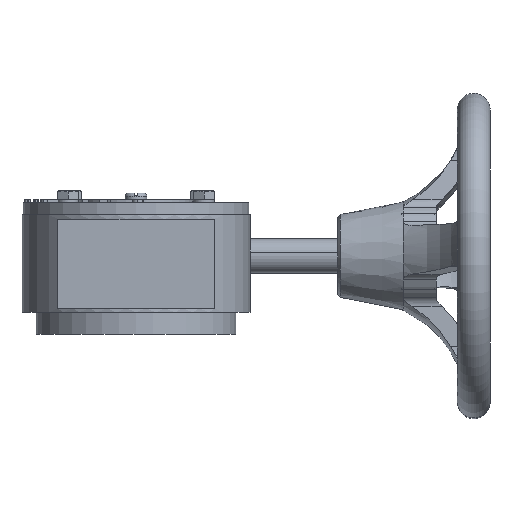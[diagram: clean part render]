
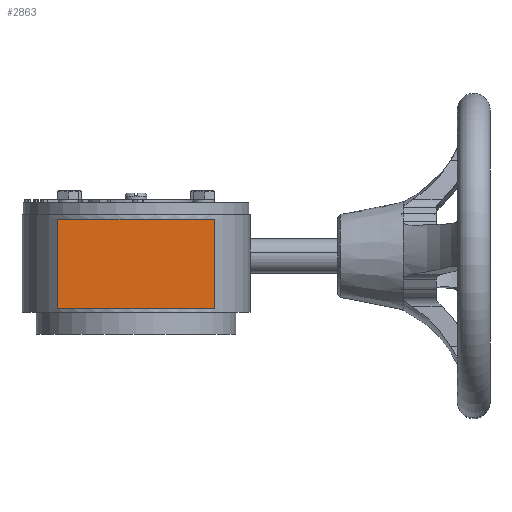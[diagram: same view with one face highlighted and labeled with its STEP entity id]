
A CAD part, front view. The second image highlights one B-rep face of the part: STEP entity #2863.
In plain terms, the highlighted planar face has unit normal (0, -1, 0).
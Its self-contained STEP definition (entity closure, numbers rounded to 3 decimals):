
#2111 = PLANE('',#2112);
#2112 = AXIS2_PLACEMENT_3D('',#2113,#2114,#2115);
#2113 = CARTESIAN_POINT('',(-108.961,116.402,
    -8.425));
#2114 = DIRECTION('',(0.,0.,1.));
#2115 = DIRECTION('',(1.,0.,-0.));
#2131 = VERTEX_POINT('',#2132);
#2132 = CARTESIAN_POINT('',(-110.38,114.275,
    -8.425));
#2146 = PLANE('',#2147);
#2147 = AXIS2_PLACEMENT_3D('',#2148,#2149,#2150);
#2148 = CARTESIAN_POINT('',(-110.38,114.275,
    -8.425));
#2149 = DIRECTION('',(1.,0.,0.));
#2150 = DIRECTION('',(0.,0.,-1.));
#2158 = EDGE_CURVE('',#2131,#2159,#2161,.T.);
#2159 = VERTEX_POINT('',#2160);
#2160 = CARTESIAN_POINT('',(-107.543,114.275,
    -8.425));
#2161 = SURFACE_CURVE('',#2162,(#2166,#2173),.PCURVE_S1.);
#2162 = LINE('',#2163,#2164);
#2163 = CARTESIAN_POINT('',(-110.38,114.275,
    -8.425));
#2164 = VECTOR('',#2165,1.);
#2165 = DIRECTION('',(1.,0.,0.));
#2166 = PCURVE('',#2111,#2167);
#2167 = DEFINITIONAL_REPRESENTATION('',(#2168),#2172);
#2168 = LINE('',#2169,#2170);
#2169 = CARTESIAN_POINT('',(-1.418,-2.128));
#2170 = VECTOR('',#2171,1.);
#2171 = DIRECTION('',(1.,0.));
#2172 = ( GEOMETRIC_REPRESENTATION_CONTEXT(2) 
PARAMETRIC_REPRESENTATION_CONTEXT() REPRESENTATION_CONTEXT('2D SPACE',''
  ) );
#2173 = PCURVE('',#2174,#2179);
#2174 = PLANE('',#2175);
#2175 = AXIS2_PLACEMENT_3D('',#2176,#2177,#2178);
#2176 = CARTESIAN_POINT('',(-110.38,114.275,
    -8.425));
#2177 = DIRECTION('',(0.,1.,0.));
#2178 = DIRECTION('',(0.,-0.,1.));
#2179 = DEFINITIONAL_REPRESENTATION('',(#2180),#2184);
#2180 = LINE('',#2181,#2182);
#2181 = CARTESIAN_POINT('',(0.,0.));
#2182 = VECTOR('',#2183,1.);
#2183 = DIRECTION('',(0.,1.));
#2184 = ( GEOMETRIC_REPRESENTATION_CONTEXT(2) 
PARAMETRIC_REPRESENTATION_CONTEXT() REPRESENTATION_CONTEXT('2D SPACE',''
  ) );
#2200 = PLANE('',#2201);
#2201 = AXIS2_PLACEMENT_3D('',#2202,#2203,#2204);
#2202 = CARTESIAN_POINT('',(-107.543,114.275,
    -8.425));
#2203 = DIRECTION('',(-1.,0.,0.));
#2204 = DIRECTION('',(0.,0.,1.));
#2504 = PLANE('',#2505);
#2505 = AXIS2_PLACEMENT_3D('',#2506,#2507,#2508);
#2506 = CARTESIAN_POINT('',(-108.961,116.402,
    -10.041));
#2507 = DIRECTION('',(0.,0.,1.));
#2508 = DIRECTION('',(1.,0.,-0.));
#2569 = VERTEX_POINT('',#2570);
#2570 = CARTESIAN_POINT('',(-110.38,114.275,
    -10.041));
#2593 = VERTEX_POINT('',#2594);
#2594 = CARTESIAN_POINT('',(-107.543,114.275,
    -10.041));
#2615 = EDGE_CURVE('',#2569,#2593,#2616,.T.);
#2616 = SURFACE_CURVE('',#2617,(#2621,#2628),.PCURVE_S1.);
#2617 = LINE('',#2618,#2619);
#2618 = CARTESIAN_POINT('',(-110.38,114.275,
    -10.041));
#2619 = VECTOR('',#2620,1.);
#2620 = DIRECTION('',(1.,0.,0.));
#2621 = PCURVE('',#2504,#2622);
#2622 = DEFINITIONAL_REPRESENTATION('',(#2623),#2627);
#2623 = LINE('',#2624,#2625);
#2624 = CARTESIAN_POINT('',(-1.418,-2.128));
#2625 = VECTOR('',#2626,1.);
#2626 = DIRECTION('',(1.,0.));
#2627 = ( GEOMETRIC_REPRESENTATION_CONTEXT(2) 
PARAMETRIC_REPRESENTATION_CONTEXT() REPRESENTATION_CONTEXT('2D SPACE',''
  ) );
#2628 = PCURVE('',#2174,#2629);
#2629 = DEFINITIONAL_REPRESENTATION('',(#2630),#2634);
#2630 = LINE('',#2631,#2632);
#2631 = CARTESIAN_POINT('',(-1.615,0.));
#2632 = VECTOR('',#2633,1.);
#2633 = DIRECTION('',(0.,1.));
#2634 = ( GEOMETRIC_REPRESENTATION_CONTEXT(2) 
PARAMETRIC_REPRESENTATION_CONTEXT() REPRESENTATION_CONTEXT('2D SPACE',''
  ) );
#2642 = EDGE_CURVE('',#2159,#2593,#2643,.T.);
#2643 = SURFACE_CURVE('',#2644,(#2648,#2655),.PCURVE_S1.);
#2644 = LINE('',#2645,#2646);
#2645 = CARTESIAN_POINT('',(-107.543,114.275,
    -8.425));
#2646 = VECTOR('',#2647,1.);
#2647 = DIRECTION('',(0.,0.,-1.));
#2648 = PCURVE('',#2200,#2649);
#2649 = DEFINITIONAL_REPRESENTATION('',(#2650),#2654);
#2650 = LINE('',#2651,#2652);
#2651 = CARTESIAN_POINT('',(0.,0.));
#2652 = VECTOR('',#2653,1.);
#2653 = DIRECTION('',(-1.,0.));
#2654 = ( GEOMETRIC_REPRESENTATION_CONTEXT(2) 
PARAMETRIC_REPRESENTATION_CONTEXT() REPRESENTATION_CONTEXT('2D SPACE',''
  ) );
#2655 = PCURVE('',#2174,#2656);
#2656 = DEFINITIONAL_REPRESENTATION('',(#2657),#2661);
#2657 = LINE('',#2658,#2659);
#2658 = CARTESIAN_POINT('',(0.,2.837));
#2659 = VECTOR('',#2660,1.);
#2660 = DIRECTION('',(-1.,0.));
#2661 = ( GEOMETRIC_REPRESENTATION_CONTEXT(2) 
PARAMETRIC_REPRESENTATION_CONTEXT() REPRESENTATION_CONTEXT('2D SPACE',''
  ) );
#2841 = EDGE_CURVE('',#2131,#2569,#2842,.T.);
#2842 = SURFACE_CURVE('',#2843,(#2847,#2854),.PCURVE_S1.);
#2843 = LINE('',#2844,#2845);
#2844 = CARTESIAN_POINT('',(-110.38,114.275,
    -8.425));
#2845 = VECTOR('',#2846,1.);
#2846 = DIRECTION('',(0.,0.,-1.));
#2847 = PCURVE('',#2146,#2848);
#2848 = DEFINITIONAL_REPRESENTATION('',(#2849),#2853);
#2849 = LINE('',#2850,#2851);
#2850 = CARTESIAN_POINT('',(0.,0.));
#2851 = VECTOR('',#2852,1.);
#2852 = DIRECTION('',(1.,0.));
#2853 = ( GEOMETRIC_REPRESENTATION_CONTEXT(2) 
PARAMETRIC_REPRESENTATION_CONTEXT() REPRESENTATION_CONTEXT('2D SPACE',''
  ) );
#2854 = PCURVE('',#2174,#2855);
#2855 = DEFINITIONAL_REPRESENTATION('',(#2856),#2860);
#2856 = LINE('',#2857,#2858);
#2857 = CARTESIAN_POINT('',(0.,0.));
#2858 = VECTOR('',#2859,1.);
#2859 = DIRECTION('',(-1.,0.));
#2860 = ( GEOMETRIC_REPRESENTATION_CONTEXT(2) 
PARAMETRIC_REPRESENTATION_CONTEXT() REPRESENTATION_CONTEXT('2D SPACE',''
  ) );
#2863 = ADVANCED_FACE('',(#2864),#2174,.F.);
#2864 = FACE_BOUND('',#2865,.T.);
#2865 = EDGE_LOOP('',(#2866,#2867,#2868,#2869));
#2866 = ORIENTED_EDGE('',*,*,#2615,.T.);
#2867 = ORIENTED_EDGE('',*,*,#2642,.F.);
#2868 = ORIENTED_EDGE('',*,*,#2158,.F.);
#2869 = ORIENTED_EDGE('',*,*,#2841,.T.);
